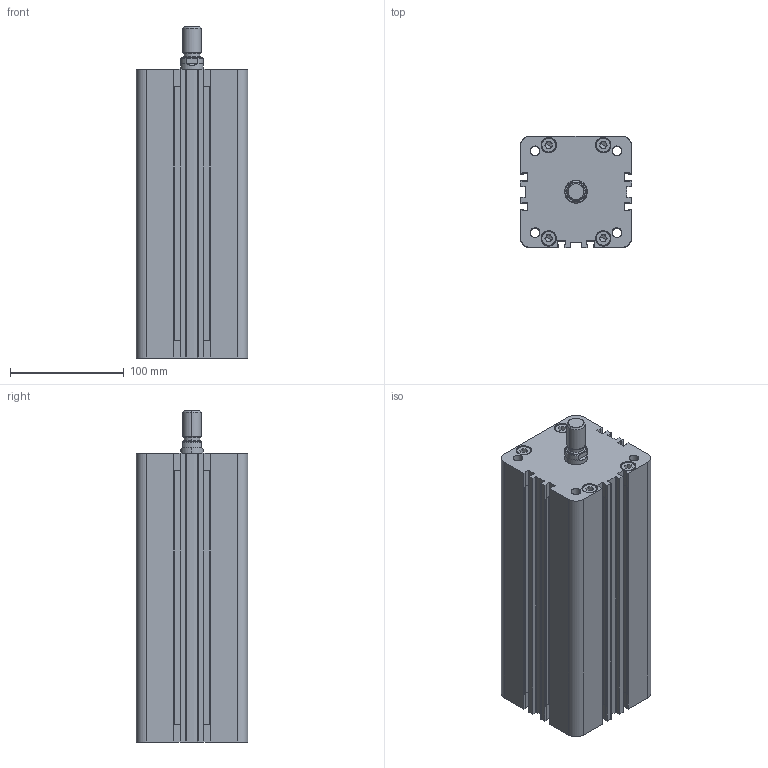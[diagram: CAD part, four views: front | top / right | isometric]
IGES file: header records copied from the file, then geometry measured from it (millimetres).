
Start section: SolidWorks IGES file using analytic representation for surfaces
Global section: file name: K:\Disegni Esecutivi\Cilindri\2_DISEGNI_cilindri_in_produzione\CILINDRO_ISO_21287\seconda versione cilindro 21287\2_CIL80\VERSIONE 80\COMPLESSIVI W80\W80_PIENI\WFM80\WFM0800200A.igs; native system: SolidWorks 2011; preprocessor: SolidWorks 2011; author: Cad01; date: 120803.172302; units: millimetre
Bounding box: 98 x 98 x 292 mm (x, y, z)
Surface area: 178366.7 mm2 (no closed solid volume)
Topology: 0 solids, 0 shells, 561 faces, 5701 edges, 5685 vertices
Faces by surface type: bspline 300, revolution 261
